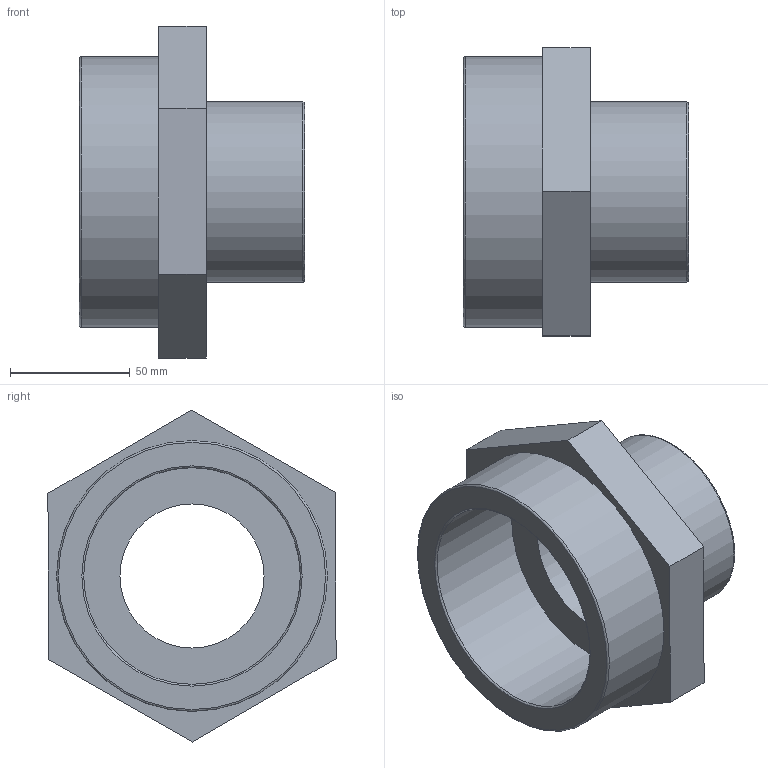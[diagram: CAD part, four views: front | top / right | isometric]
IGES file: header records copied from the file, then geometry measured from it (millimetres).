
Global section: file name: 051601040025.ipt; native system: Autodesk Inventor 2015; preprocessor: unknown; author: KIM; date: 20171207.165312; units: millimetre
Bounding box: 94 x 120.26 x 138.56 mm (x, y, z)
Volume: 334942.9 mm3; surface area: 70654.8 mm2
Topology: 1 solids, 1 shells, 19 faces, 50 edges, 36 vertices
Faces by surface type: plane 11, revolution 6, cylinder 2
Full cylindrical faces by diameter (mm): 75.184 x1, 113.03 x1
